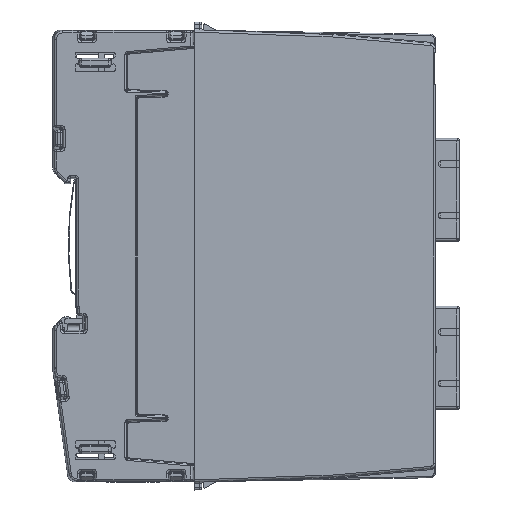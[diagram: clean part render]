
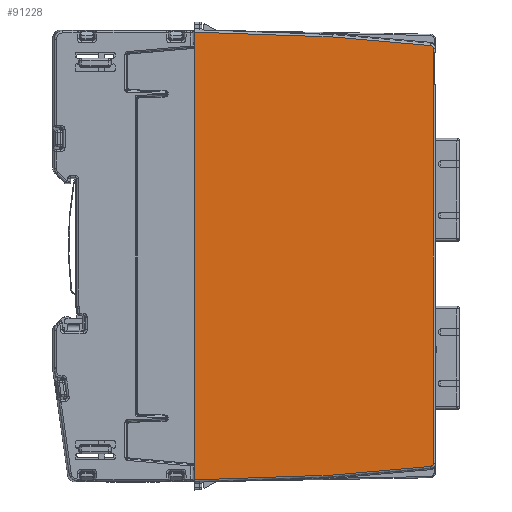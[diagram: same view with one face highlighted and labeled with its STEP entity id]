
A CAD part, left-side view. The second image highlights one B-rep face of the part: STEP entity #91228.
In plain terms, the highlighted planar face has unit normal (-1, -0.018, 0).
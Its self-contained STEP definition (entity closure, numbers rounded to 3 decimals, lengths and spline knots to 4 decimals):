
#9165=FACE_OUTER_BOUND('',#14327,.T.);
#14327=EDGE_LOOP('',(#71001,#71002,#71003,#71004,#71005,#71006,#71007,#71008,
#71009,#71010));
#21427=LINE('',#155630,#29743);
#21428=LINE('',#155634,#29744);
#21429=LINE('',#155636,#29745);
#21430=LINE('',#155638,#29746);
#21431=LINE('',#155640,#29747);
#21432=LINE('',#155642,#29748);
#21433=LINE('',#155646,#29749);
#21434=LINE('',#155649,#29750);
#29743=VECTOR('',#116711,39.3701);
#29744=VECTOR('',#116716,39.3701);
#29745=VECTOR('',#116717,39.3701);
#29746=VECTOR('',#116718,39.3701);
#29747=VECTOR('',#116719,39.3701);
#29748=VECTOR('',#116720,39.3701);
#29749=VECTOR('',#116723,39.3701);
#29750=VECTOR('',#116726,39.3701);
#33902=ELLIPSE('',#98245,0.0315,0.0315);
#33903=ELLIPSE('',#98246,0.0315,0.0315);
#39390=VERTEX_POINT('',#155627);
#39391=VERTEX_POINT('',#155629);
#39392=VERTEX_POINT('',#155633);
#39393=VERTEX_POINT('',#155635);
#39394=VERTEX_POINT('',#155637);
#39395=VERTEX_POINT('',#155639);
#39396=VERTEX_POINT('',#155641);
#39397=VERTEX_POINT('',#155643);
#39398=VERTEX_POINT('',#155645);
#39399=VERTEX_POINT('',#155647);
#50501=EDGE_CURVE('',#39391,#39390,#21427,.T.);
#50503=EDGE_CURVE('',#39390,#39392,#21428,.T.);
#50504=EDGE_CURVE('',#39393,#39392,#21429,.T.);
#50505=EDGE_CURVE('',#39393,#39394,#21430,.T.);
#50506=EDGE_CURVE('',#39394,#39395,#21431,.T.);
#50507=EDGE_CURVE('',#39395,#39396,#21432,.T.);
#50508=EDGE_CURVE('',#39396,#39397,#33902,.T.);
#50509=EDGE_CURVE('',#39397,#39398,#21433,.T.);
#50510=EDGE_CURVE('',#39398,#39399,#33903,.T.);
#50511=EDGE_CURVE('',#39399,#39391,#21434,.T.);
#71001=ORIENTED_EDGE('',*,*,#50501,.T.);
#71002=ORIENTED_EDGE('',*,*,#50503,.T.);
#71003=ORIENTED_EDGE('',*,*,#50504,.F.);
#71004=ORIENTED_EDGE('',*,*,#50505,.T.);
#71005=ORIENTED_EDGE('',*,*,#50506,.T.);
#71006=ORIENTED_EDGE('',*,*,#50507,.T.);
#71007=ORIENTED_EDGE('',*,*,#50508,.T.);
#71008=ORIENTED_EDGE('',*,*,#50509,.T.);
#71009=ORIENTED_EDGE('',*,*,#50510,.T.);
#71010=ORIENTED_EDGE('',*,*,#50511,.T.);
#82376=PLANE('',#98244);
#91228=ADVANCED_FACE('',(#9165),#82376,.T.);
#98244=AXIS2_PLACEMENT_3D('',#155632,#116714,#116715);
#98245=AXIS2_PLACEMENT_3D('',#155644,#116721,#116722);
#98246=AXIS2_PLACEMENT_3D('',#155648,#116724,#116725);
#116711=DIRECTION('',(-0.017,0.999,0.035));
#116714=DIRECTION('center_axis',(-1.,-0.017,
0.));
#116715=DIRECTION('ref_axis',(-0.017,1.,0.));
#116716=DIRECTION('',(0.,0.,-1.));
#116717=DIRECTION('',(0.,0.,1.));
#116718=DIRECTION('',(0.,0.,-1.));
#116719=DIRECTION('',(0.017,-0.999,0.035));
#116720=DIRECTION('',(0.017,-0.996,0.087));
#116721=DIRECTION('center_axis',(-1.,-0.017,
0.));
#116722=DIRECTION('ref_axis',(0.017,-1.,0.));
#116723=DIRECTION('',(0.,0.,1.));
#116724=DIRECTION('center_axis',(-1.,-0.017,
0.));
#116725=DIRECTION('ref_axis',(0.017,-1.,0.));
#116726=DIRECTION('',(-0.017,0.996,0.087));
#155627=CARTESIAN_POINT('',(-0.0227,-0.8686,0.1083));
#155629=CARTESIAN_POINT('',(0.0007,-2.2063,0.0616));
#155630=CARTESIAN_POINT('',(-0.0282,-0.5512,0.1194));
#155632=CARTESIAN_POINT('Origin',(-0.0295,-0.4749,
-2.0669));
#155633=CARTESIAN_POINT('',(-0.0227,-0.8686,-0.0312));
#155634=CARTESIAN_POINT('',(-0.0227,-0.8686,0.128));
#155635=CARTESIAN_POINT('',(-0.0227,-0.8686,-4.1027));
#155636=CARTESIAN_POINT('',(-0.0227,-0.8686,-7.5932));
#155637=CARTESIAN_POINT('',(-0.0227,-0.8686,-4.2421));
#155638=CARTESIAN_POINT('',(-0.0227,-0.8686,0.128));
#155639=CARTESIAN_POINT('',(0.0007,-2.2063,-4.1954));
#155640=CARTESIAN_POINT('',(-0.0282,-0.5512,-4.2532));
#155641=CARTESIAN_POINT('',(0.0174,-3.163,-4.1117));
#155642=CARTESIAN_POINT('',(-0.0261,-0.6728,-4.3296));
#155643=CARTESIAN_POINT('',(0.0179,-3.1918,-4.0803));
#155644=CARTESIAN_POINT('Origin',(0.0173,-3.1603,
-4.0803));
#155645=CARTESIAN_POINT('',(0.0179,-3.1918,-0.0535));
#155646=CARTESIAN_POINT('',(0.0179,-3.1918,-0.0535));
#155647=CARTESIAN_POINT('',(0.0174,-3.163,-0.0221));
#155648=CARTESIAN_POINT('Origin',(0.0173,-3.1603,
-0.0535));
#155649=CARTESIAN_POINT('',(-0.0261,-0.6728,0.1957));
